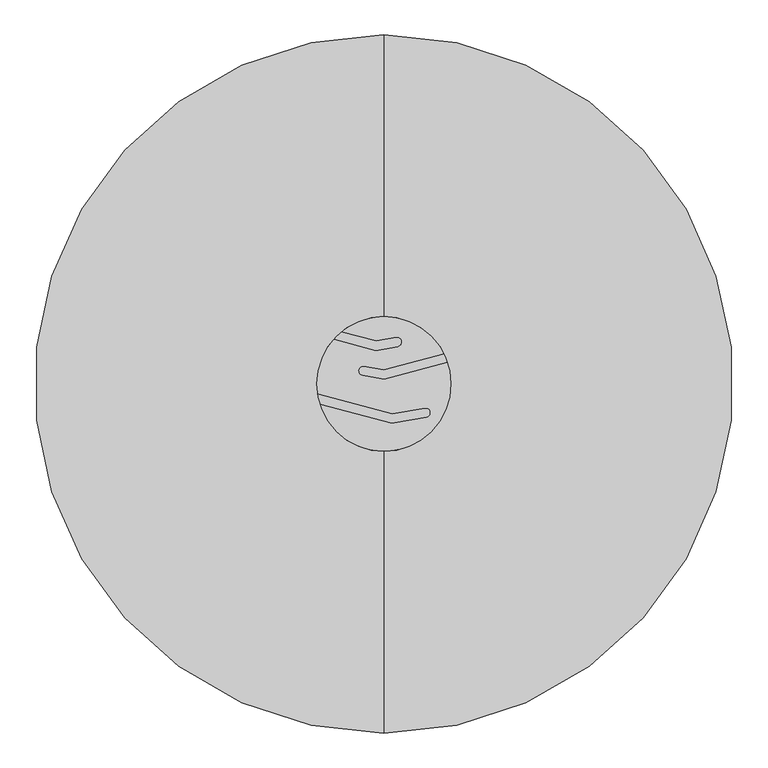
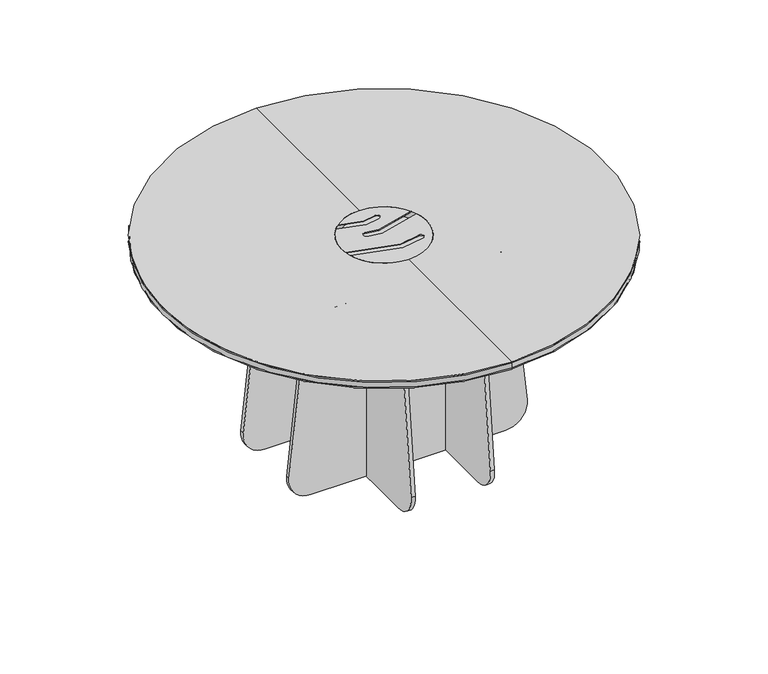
"""IFC4 building model written with IfcOpenShell, lengths in millimetres: furniture geometry, Lundbergs Möbler - Funghi - Table - Round - Ø150 - H73 : Lundbergs Möbler - Funghi - Table - Round - Ø150 - H73."""

from ifc_helpers import new_model, si_unit, point, frame, frame_2d, origin, origin_2d, place, context, project, spatial, polyline, circle_curve, ellipse_curve, trimmed, segment, composite_curve, outline, extrude, source, transform, mapped, element, save
from ifc_brep_helpers import plane_surface, cylinder_surface, revolved_surface, advanced_brep


def furniture_6d91cb97(model_context):
    return source(origin(), model_context, "Body", "SolidModel", [
        advanced_brep(
        [(0.0, -750.0, 707.5331539), (0.0, 750.0, 707.5331539), (0.0, 742.5, 700.0331539), (0.0, -742.5, 700.0331539), (0.0, -750.0, 725.0331674), (0.0, 750.0, 725.0331674), (0.0, -750.0, 730.0), (0.0, 750.0, 730.0), (0.0, -145.0, 730.0), (-145.0, 0.0, 730.0), (0.0, 145.0, 730.0), (145.0, 0.0, 730.0), (0.0, 0.0, 700.0331539), (-145.0, 0.0, 702.6632789), (145.0, 0.0, 702.6632789)],
        [
            (0, 1, circle_curve(frame((0.0, 0.0, 707.5331539), z_axis=(0.0, 0.0, -1.0), x_axis=(0.0, 1.0, 0.0)), 750.0)),
            (1, 2, circle_curve(frame((0.0, 742.5, 707.5331539), z_axis=(-1.0, 0.0, 0.0), x_axis=(0.0, -1.0, 0.0)), 7.5)),
            (2, 3, circle_curve(frame((0.0, 0.0, 700.0331539), z_axis=(0.0, 0.0, 1.0), x_axis=(0.0, 1.0, 0.0)), 742.5)),
            (3, 0, circle_curve(frame((0.0, -742.5, 707.5331539), z_axis=(-1.0, 0.0, 0.0), x_axis=(0.0, 1.0, 0.0)), 7.5)),
            (1, 0, circle_curve(frame((0.0, 0.0, 707.5331539), z_axis=(0.0, 0.0, -1.0), x_axis=(0.0, 1.0, 0.0)), 750.0)),
            (3, 2, circle_curve(frame((0.0, 0.0, 700.0331539), z_axis=(0.0, 0.0, 1.0), x_axis=(0.0, 1.0, 0.0)), 742.5)),
            (0, 4),
            (4, 5, circle_curve(frame((0.0, 0.0, 725.0331674), z_axis=(0.0, 0.0, -1.0), x_axis=(0.0, 1.0, 0.0)), 750.0)),
            (5, 1),
            (5, 4, circle_curve(frame((0.0, 0.0, 725.0331674), z_axis=(0.0, 0.0, -1.0), x_axis=(0.0, 1.0, 0.0)), 750.0)),
            (4, 6),
            (6, 7, circle_curve(frame((0.0, 0.0, 730.0), z_axis=(0.0, 0.0, -1.0), x_axis=(0.0, 1.0, 0.0)), 750.0)),
            (7, 5),
            (7, 6, circle_curve(frame((0.0, 0.0, 730.0), z_axis=(0.0, 0.0, -1.0), x_axis=(0.0, 1.0, 0.0)), 750.0)),
            (6, 8),
            (8, 9, circle_curve(frame((0.0, 0.0, 730.0), z_axis=(0.0, 0.0, -1.0), x_axis=(1.0, 0.0, 0.0)), 145.0)),
            (9, 10, circle_curve(frame((0.0, 0.0, 730.0), z_axis=(0.0, 0.0, -1.0), x_axis=(1.0, 0.0, 0.0)), 145.0)),
            (10, 7),
            (10, 11, circle_curve(frame((0.0, 0.0, 730.0), z_axis=(0.0, 0.0, -1.0), x_axis=(1.0, 0.0, 0.0)), 145.0)),
            (11, 8, circle_curve(frame((0.0, 0.0, 730.0), z_axis=(0.0, 0.0, -1.0), x_axis=(1.0, 0.0, 0.0)), 145.0)),
            (2, 12),
            (12, 3),
            (13, 14, circle_curve(frame((0.0, 0.0, 702.6632789), z_axis=(0.0, 0.0, 1.0), x_axis=(1.0, 0.0, 0.0)), 145.0)),
            (14, 13, circle_curve(frame((0.0, 0.0, 702.6632789), z_axis=(0.0, 0.0, 1.0), x_axis=(1.0, 0.0, 0.0)), 145.0)),
            (13, 9),
            (11, 14),
        ],
        [
            revolved_surface(trimmed(ellipse_curve(frame((0.0, 742.5, 707.5331539), z_axis=(1.0, 0.0, 0.0), x_axis=(0.0, -1.0, 0.0)), 7.5, 7.5), [point((0.0, 742.5, 700.0331539))], [point((0.0, 750.0, 707.5331539))], True, "CARTESIAN"), (0.0, 0.0, 980.0), (0.0, 0.0, 1.0)),
            cylinder_surface(frame((0.0, 0.0, 980.0), z_axis=(0.0, 0.0, 1.0), x_axis=(0.0, 1.0, 0.0)), 750.0),
            plane_surface(frame((0.0, 0.0, 730.0), z_axis=(0.0, 0.0, 1.0), x_axis=(0.0, 1.0, 0.0))),
            plane_surface(frame((0.0, 0.0, 700.0331539), z_axis=(0.0, 0.0, -1.0), x_axis=(0.0, 1.0, 0.0))),
            plane_surface(frame((145.0, 0.0, 702.6632789), z_axis=(0.0, 0.0, 1.0), x_axis=(0.0, -1.0, 0.0))),
            revolved_surface(polyline([(145.0, 0.0, 730.0), (145.0, 0.0, 702.6632789)]), (0.0, 0.0, 702.6632789), (0.0, 0.0, 1.0)),
        ],
        [
            (0, [[1, 2, 3, 4]]),
            (0, [[-2, 5, -4, 6]]),
            (1, [[-1, 7, 8, 9]]),
            (1, [[-5, -9, 10, -7]]),
            (1, [[-8, 11, 12, 13]]),
            (1, [[-10, -13, 14, -11]]),
            (2, [[-12, 15, 16, 17, 18]]),
            (2, [[-14, -18, 19, 20, -15]]),
            (3, [[-3, 21, 22]]),
            (3, [[-6, -22, -21]]),
            (4, [[23, 24]]),
            (5, [[-23, 25, -16, -20, 26]]),
            (5, [[-24, -26, -19, -17, -25]]),
        ],
    ),
        extrude(outline(composite_curve([segment(trimmed(circle_curve(origin_2d(), 145.0), [point((-143.4635973, -21.0522268))], [point((-108.3690688, 96.338699))], False, "CARTESIAN"), True, "CONTINUOUS"), segment(polyline([(-108.3690688, 96.338699), (-17.217028, 71.9145833), (30.2144383, 80.2780306)]), True, "CONTINUOUS"), segment(trimmed(circle_curve(frame_2d((28.4779566, 90.1261081)), 10.0), [point((30.2144383, 80.2780306))], [point((26.7414748, 99.9741856))], True, "CARTESIAN"), True, "CONTINUOUS"), segment(polyline([(26.7414748, 99.9741856), (-16.3234591, 92.3806759), (-91.463255, 112.5143235)]), True, "CONTINUOUS"), segment(trimmed(circle_curve(origin_2d(), 145.0), [point((-91.463255, 112.5143235))], [point((129.5098534, 65.2088788))], False, "CARTESIAN"), True, "CONTINUOUS"), segment(polyline([(129.5098534, 65.2088788), (0.0, 30.5068182), (-43.0649339, 38.1003279)]), True, "CONTINUOUS"), segment(trimmed(circle_curve(frame_2d((-44.8014157, 28.2522504)), 10.0), [point((-43.0649339, 38.1003279))], [point((-46.5378975, 18.4041729))], True, "CARTESIAN"), True, "CONTINUOUS"), segment(polyline([(-46.5378975, 18.4041729), (0.8935689, 10.0407256), (137.3100639, 46.5934153)]), True, "CONTINUOUS"), segment(trimmed(circle_curve(origin_2d(), 145.0), [point((137.3100639, 46.5934153))], [point((-138.4456235, -43.1023124))], False, "CARTESIAN"), True, "CONTINUOUS"), segment(polyline([(-138.4456235, -43.1023124), (16.9662998, -84.7448118), (91.5378975, -71.5958271)]), True, "CONTINUOUS"), segment(trimmed(circle_curve(frame_2d((89.8014157, -61.7477496)), 10.0), [point((91.5378975, -71.5958271))], [point((88.0649339, -51.8996721))], True, "CARTESIAN"), True, "CONTINUOUS"), segment(polyline([(88.0649339, -51.8996721), (17.8598687, -64.2787192), (-143.4635973, -21.0522268)]), True, "CONTINUOUS")], self_intersect=False)), frame((0.0, 0.0, 727.525898), z_axis=(0.0, 0.0, 1.0), x_axis=(1.0, 0.0, 0.0)), (0.0, 0.0, 1.0), 2.474102),
        extrude(outline(composite_curve([segment(trimmed(circle_curve(frame_2d((698.3873965, 196.2845895)), 8.5), [point((689.8873965, 196.2845895))], [point((698.3873965, 204.7845895))], False, "CARTESIAN"), True, "CONTINUOUS"), segment(polyline([(698.3873965, 204.7845895), (700.000378, 204.7845895), (700.000378, -204.7845895), (698.3873965, -204.7845895)]), True, "CONTINUOUS"), segment(trimmed(circle_curve(frame_2d((698.3873965, -196.2845895)), 8.5), [point((698.3873965, -204.7845895))], [point((689.8873965, -196.2845895))], False, "CARTESIAN"), True, "CONTINUOUS"), segment(polyline([(689.8873965, -196.2845895), (689.8873965, 196.2845895)]), True, "CONTINUOUS")], self_intersect=False)), frame((0.0, 242.5896085, 0.0), z_axis=(0.0, 1.0, 0.0), x_axis=(0.0, 0.0, 1.0)), (0.0, 0.0, 1.0), 40.0000216),
        extrude(outline(composite_curve([segment(trimmed(circle_curve(frame_2d((-196.2845895, 698.3873965)), 8.5), [point((-196.2845895, 689.8873965))], [point((-204.7845895, 698.3873965))], False, "CARTESIAN"), True, "CONTINUOUS"), segment(polyline([(-204.7845895, 698.3873965), (-204.7845895, 700.000378), (204.7845895, 700.000378), (204.7845895, 698.3873965)]), True, "CONTINUOUS"), segment(trimmed(circle_curve(frame_2d((196.2845895, 698.3873965)), 8.5), [point((204.7845895, 698.3873965))], [point((196.2845895, 689.8873965))], False, "CARTESIAN"), True, "CONTINUOUS"), segment(polyline([(196.2845895, 689.8873965), (-196.2845895, 689.8873965)]), True, "CONTINUOUS")], self_intersect=False)), frame((242.5896085, 0.0, 0.0), z_axis=(1.0, 0.0, 0.0), x_axis=(0.0, 1.0, 0.0)), (0.0, 0.0, 1.0), 40.0000216),
        extrude(outline(composite_curve([segment(trimmed(circle_curve(frame_2d((-196.2845895, 698.3873965)), 8.5), [point((-196.2845895, 689.8873965))], [point((-204.7845895, 698.3873965))], False, "CARTESIAN"), True, "CONTINUOUS"), segment(polyline([(-204.7845895, 698.3873965), (-204.7845895, 700.000378), (204.7845895, 700.000378), (204.7845895, 698.3873965)]), True, "CONTINUOUS"), segment(trimmed(circle_curve(frame_2d((196.2845895, 698.3873965)), 8.5), [point((204.7845895, 698.3873965))], [point((196.2845895, 689.8873965))], False, "CARTESIAN"), True, "CONTINUOUS"), segment(polyline([(196.2845895, 689.8873965), (-196.2845895, 689.8873965)]), True, "CONTINUOUS")], self_intersect=False)), frame((-282.5896301, 0.0, 0.0), z_axis=(1.0, 0.0, 0.0), x_axis=(0.0, 1.0, 0.0)), (0.0, 0.0, 1.0), 40.0000216),
        extrude(outline(composite_curve([segment(trimmed(circle_curve(frame_2d((698.3873965, 196.2845895)), 8.5), [point((689.8873965, 196.2845895))], [point((698.3873965, 204.7845895))], False, "CARTESIAN"), True, "CONTINUOUS"), segment(polyline([(698.3873965, 204.7845895), (700.000378, 204.7845895), (700.000378, -204.7845895), (698.3873965, -204.7845895)]), True, "CONTINUOUS"), segment(trimmed(circle_curve(frame_2d((698.3873965, -196.2845895)), 8.5), [point((698.3873965, -204.7845895))], [point((689.8873965, -196.2845895))], False, "CARTESIAN"), True, "CONTINUOUS"), segment(polyline([(689.8873965, -196.2845895), (689.8873965, 196.2845895)]), True, "CONTINUOUS")], self_intersect=False)), frame((0.0, -282.5896301, 0.0), z_axis=(0.0, 1.0, 0.0), x_axis=(0.0, 0.0, 1.0)), (0.0, 0.0, 1.0), 40.0000216),
        extrude(outline(composite_curve([segment(trimmed(circle_curve(frame_2d((328.9885604, 75.0)), 75.0), [point((403.5717494, 82.8960696))], [point((328.9885604, 0.0))], False, "CARTESIAN"), True, "CONTINUOUS"), segment(polyline([(328.9885604, 0.0), (-328.9885604, 0.0)]), True, "CONTINUOUS"), segment(trimmed(circle_curve(frame_2d((-328.9885604, 75.0)), 75.0), [point((-328.9885604, 0.0))], [point((-403.5717494, 82.8960696))], False, "CARTESIAN"), True, "CONTINUOUS"), segment(polyline([(-403.5717494, 82.8960696), (-338.2393517, 700.000378), (338.2393517, 700.000378), (403.5717494, 82.8960696)]), True, "CONTINUOUS")], self_intersect=False)), frame((127.6465142, 0.0, 0.0), z_axis=(1.0, 0.0, 0.0), x_axis=(0.0, 1.0, 0.0)), (0.0, 0.0, 1.0), 13.4999997),
        extrude(outline(composite_curve([segment(trimmed(circle_curve(frame_2d((328.9885604, 75.0)), 75.0), [point((403.5717494, 82.8960696))], [point((328.9885604, 0.0))], False, "CARTESIAN"), True, "CONTINUOUS"), segment(polyline([(328.9885604, 0.0), (-328.9885604, 0.0)]), True, "CONTINUOUS"), segment(trimmed(circle_curve(frame_2d((-328.9885604, 75.0)), 75.0), [point((-328.9885604, 0.0))], [point((-403.5717494, 82.8960696))], False, "CARTESIAN"), True, "CONTINUOUS"), segment(polyline([(-403.5717494, 82.8960696), (-338.2393517, 700.000378), (338.2393517, 700.000378), (403.5717494, 82.8960696)]), True, "CONTINUOUS")], self_intersect=False)), frame((-141.1465138, 0.0, 0.0), z_axis=(1.0, 0.0, 0.0), x_axis=(0.0, 1.0, 0.0)), (0.0, 0.0, 1.0), 13.4999997),
        extrude(outline(composite_curve([segment(trimmed(circle_curve(frame_2d((75.0, -328.9885604)), 75.0), [point((82.8960696, -403.5717494))], [point((0.0, -328.9885604))], False, "CARTESIAN"), True, "CONTINUOUS"), segment(polyline([(0.0, -328.9885604), (0.0, 328.9885604)]), True, "CONTINUOUS"), segment(trimmed(circle_curve(frame_2d((75.0, 328.9885604)), 75.0), [point((0.0, 328.9885604))], [point((82.8960696, 403.5717494))], False, "CARTESIAN"), True, "CONTINUOUS"), segment(polyline([(82.8960696, 403.5717494), (700.000378, 338.2393517), (700.000378, -338.2393517), (82.8960696, -403.5717494)]), True, "CONTINUOUS")], self_intersect=False)), frame((0.0, 127.6465142, 0.0), z_axis=(0.0, 1.0, 0.0), x_axis=(0.0, 0.0, 1.0)), (0.0, 0.0, 1.0), 13.4999997),
        extrude(outline(composite_curve([segment(trimmed(circle_curve(frame_2d((75.0, -328.9885604)), 75.0), [point((82.8960696, -403.5717494))], [point((0.0, -328.9885604))], False, "CARTESIAN"), True, "CONTINUOUS"), segment(polyline([(0.0, -328.9885604), (0.0, 328.9885604)]), True, "CONTINUOUS"), segment(trimmed(circle_curve(frame_2d((75.0, 328.9885604)), 75.0), [point((0.0, 328.9885604))], [point((82.8960696, 403.5717494))], False, "CARTESIAN"), True, "CONTINUOUS"), segment(polyline([(82.8960696, 403.5717494), (700.000378, 338.2393517), (700.000378, -338.2393517), (82.8960696, -403.5717494)]), True, "CONTINUOUS")], self_intersect=False)), frame((0.0, -141.1465138, 0.0), z_axis=(0.0, 1.0, 0.0), x_axis=(0.0, 0.0, 1.0)), (0.0, 0.0, 1.0), 13.4999997),
    ])


if __name__ == "__main__":
    model = new_model("IFC4")
    model_context = context("Model", 3, world=origin())
    ifc_project = project(units=[si_unit("LENGTHUNIT", "METRE", prefix="MILLI")], contexts=[model_context])
    site = spatial("IfcSite", under=ifc_project)
    building = spatial("IfcBuilding", under=site)
    placement = place(None, origin())
    furniture_shape = furniture_6d91cb97(model_context)
    element("IfcFurniture", 1, ObjectType="Lundbergs Möbler - Funghi - Table - Round - Ø150 - H73 : Lundbergs Möbler - Funghi - Table - Round - Ø150 - H73", at=placement, inside=building, context=model_context, shape_type="MappedRepresentation", body=[
        mapped(furniture_shape, transform((0.0, 0.0, 0.0), x_axis=(1.0, 0.0, 0.0), y_axis=(0.0, 1.0, 0.0), z_axis=(0.0, 0.0, 1.0))),
    ])
    save(model, "model.ifc")
